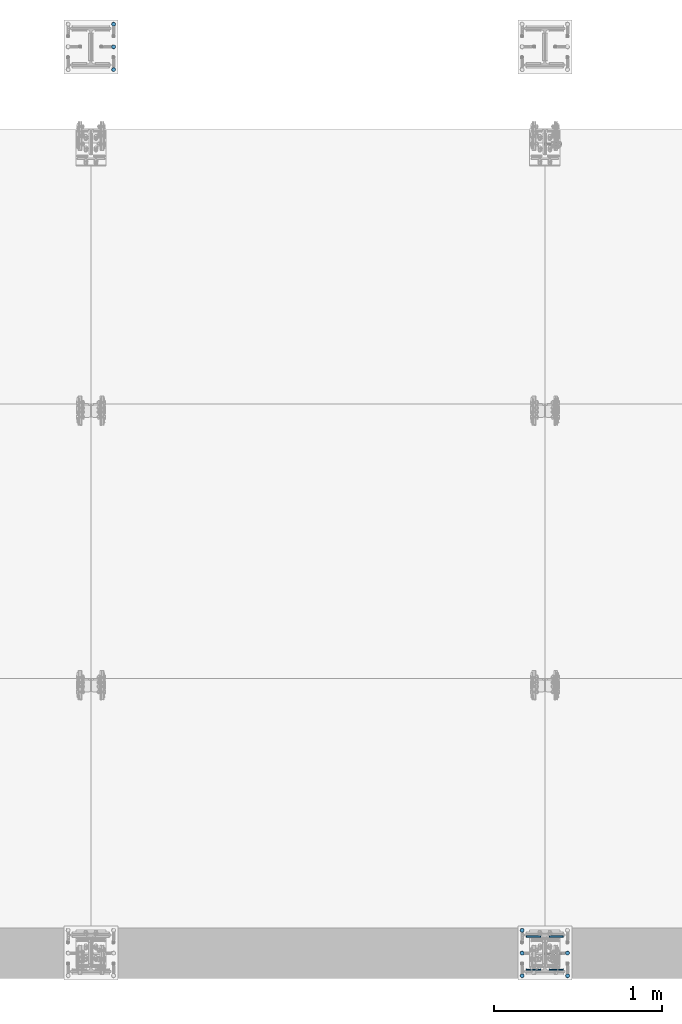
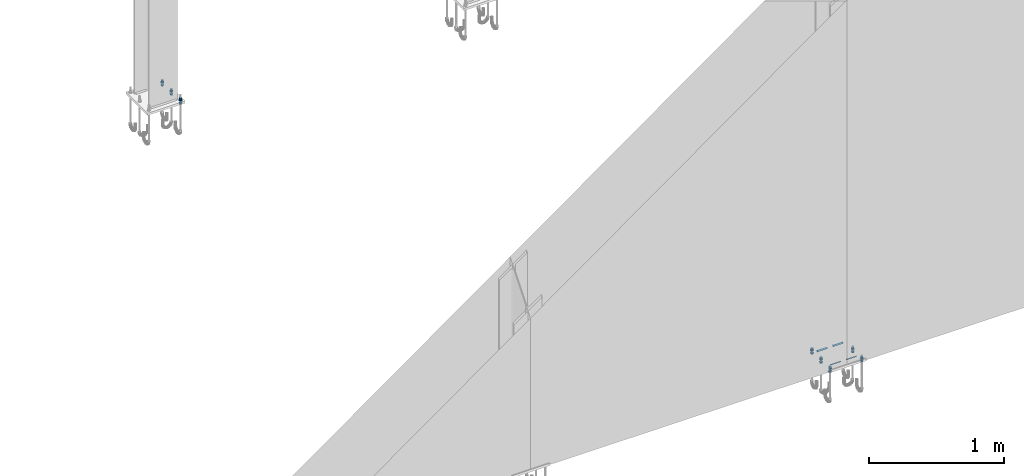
# One storey, part 52 of 72: 40 mechanical fasteners, 8 fasteners.
"""IFC4 building model written with IfcOpenShell, lengths in metres."""

from ifc_helpers import new_model, si_unit, frame, origin_with_axes, place, context, project, spatial, polyline, outline, extrude, type_object, element, save


model = new_model("IFC4")

# Units and contexts
model_context = context("Model", 3, precision=1e-05, world=origin_with_axes())
ifc_project = project(units=[si_unit("LENGTHUNIT", "METRE"), si_unit("AREAUNIT", "SQUARE_METRE"), si_unit("VOLUMEUNIT", "CUBIC_METRE"), si_unit("MASSUNIT", "GRAM", prefix="KILO"), si_unit("TIMEUNIT", "SECOND"), si_unit("PLANEANGLEUNIT", "RADIAN"), si_unit("SOLIDANGLEUNIT", "STERADIAN"), si_unit("THERMODYNAMICTEMPERATUREUNIT", "DEGREE_CELSIUS")], contexts=[model_context])

# Site, building, storey
placement_1 = place(None, origin_with_axes())
site = spatial("IfcSite", under=ifc_project, at=placement_1, Name="Italia", CompositionType="ELEMENT")
building = spatial("IfcBuilding", under=site, at=placement_1, Name="Uffici", CompositionType="ELEMENT")
storey = spatial("IfcBuildingStorey", under=building, at=placement_1, Name="Storey 0", CompositionType="ELEMENT", Elevation=0.0)

# Fasteners
fastener_type_1 = type_object("IfcFastenerType", Name="Collegamenti 0001_0101 0002_0102 0003_0103 0004_0104 0005_0105 0011_0111 0012_0112 0013_0113 0014_0114 0015_0115", PredefinedType="WELD")
placement_2 = place(placement_1, origin_with_axes())
fastener_1_placement = place(placement_2, origin_with_axes())
element("IfcFastener", 1, at=fastener_1_placement, inside=storey, type_object=fastener_type_1, Name="Collegamenti 0001_0101 0002_0102 0003_0103 0004_0104 0005_0105 0011_0111 0012_0112 0013_0113 0014_0114 0015_0115", context=model_context, shape_type="SweptSolid", body=[
    extrude(outline(polyline([(0.0, 0.0), (0.00986816, 0.0101734), (0.00986816, 0.0), (0.0, 0.0)])), frame((9.4797, 0.0931818, 0.01995), z_axis=(1.0, -8.7294403e-08, 0.0), x_axis=(8.7294403e-08, 1.0, 0.0)), (0.0, 0.0, 1.0), 0.08535),
])
fastener_type_2 = type_object("IfcFastenerType", Name="Collegamenti 0001_0101 0002_0102 0003_0103 0004_0104 0005_0105 0011_0111 0012_0112 0013_0113 0014_0114 0015_0115", PredefinedType="WELD")
fastener_2_placement = place(placement_2, origin_with_axes())
element("IfcFastener", 2, at=fastener_2_placement, inside=storey, type_object=fastener_type_2, Name="Collegamenti 0001_0101 0002_0102 0003_0103 0004_0104 0005_0105 0011_0111 0012_0112 0013_0113 0014_0114 0015_0115", context=model_context, shape_type="SweptSolid", body=[
    extrude(outline(polyline([(0.0, 0.0), (0.00986816, 0.0101734), (0.00986816, 0.0), (0.0, 0.0)])), frame((9.56505, -0.0931818, 0.01995), z_axis=(-1.0, 8.7294403e-08, 0.0), x_axis=(-8.7294403e-08, -1.0, 0.0)), (0.0, 0.0, 1.0), 0.08535),
])
fastener_type_3 = type_object("IfcFastenerType", Name="Collegamenti 0001_0101 0002_0102 0003_0103 0004_0104 0005_0105 0011_0111 0012_0112 0013_0113 0014_0114 0015_0115", PredefinedType="WELD")
fastener_3_placement = place(placement_2, origin_with_axes())
element("IfcFastener", 3, at=fastener_3_placement, inside=storey, type_object=fastener_type_3, Name="Collegamenti 0001_0101 0002_0102 0003_0103 0004_0104 0005_0105 0011_0111 0012_0112 0013_0113 0014_0114 0015_0115", context=model_context, shape_type="SweptSolid", body=[
    extrude(outline(polyline([(0.0, 0.0), (0.00986816, 0.0101734), (0.00986816, 0.0), (0.0, 0.0)])), frame((9.4303, -0.0931818, 0.01995), z_axis=(-1.0, 8.7294403e-08, 0.0), x_axis=(-8.7294403e-08, -1.0, 0.0)), (0.0, 0.0, 1.0), 0.08535),
])
fastener_type_4 = type_object("IfcFastenerType", Name="Collegamenti 0001_0101 0002_0102 0003_0103 0004_0104 0005_0105 0011_0111 0012_0112 0013_0113 0014_0114 0015_0115", PredefinedType="WELD")
fastener_4_placement = place(placement_2, origin_with_axes())
element("IfcFastener", 4, at=fastener_4_placement, inside=storey, type_object=fastener_type_4, Name="Collegamenti 0001_0101 0002_0102 0003_0103 0004_0104 0005_0105 0011_0111 0012_0112 0013_0113 0014_0114 0015_0115", context=model_context, shape_type="SweptSolid", body=[
    extrude(outline(polyline([(0.0, 0.0), (0.00986816, 0.0101734), (0.00986816, 0.0), (0.0, 0.0)])), frame((9.34495, 0.0931819, 0.01995), z_axis=(1.0, -8.7294403e-08, 0.0), x_axis=(8.7294403e-08, 1.0, 0.0)), (0.0, 0.0, 1.0), 0.08535),
])
fastener_type_5 = type_object("IfcFastenerType", Name="Collegamenti 0001_0101 0002_0102 0003_0103 0004_0104 0005_0105 0011_0111 0012_0112 0013_0113 0014_0114 0015_0115", PredefinedType="WELD")
fastener_5_placement = place(placement_2, origin_with_axes())
element("IfcFastener", 5, at=fastener_5_placement, inside=storey, type_object=fastener_type_5, Name="Collegamenti 0001_0101 0002_0102 0003_0103 0004_0104 0005_0105 0011_0111 0012_0112 0013_0113 0014_0114 0015_0115", context=model_context, shape_type="SweptSolid", body=[
    extrude(outline(polyline([(0.0, 0.0), (0.00986816, 0.0101734), (0.00986816, 0.0), (0.0, 0.0)])), frame((9.4797, 0.0931818, 0.01995), z_axis=(1.0, -8.7294403e-08, 0.0), x_axis=(8.7294403e-08, 1.0, 0.0)), (0.0, 0.0, 1.0), 0.08535),
])
fastener_type_6 = type_object("IfcFastenerType", Name="Collegamenti 0001_0101 0002_0102 0003_0103 0004_0104 0005_0105 0011_0111 0012_0112 0013_0113 0014_0114 0015_0115", PredefinedType="WELD")
fastener_6_placement = place(placement_2, origin_with_axes())
element("IfcFastener", 6, at=fastener_6_placement, inside=storey, type_object=fastener_type_6, Name="Collegamenti 0001_0101 0002_0102 0003_0103 0004_0104 0005_0105 0011_0111 0012_0112 0013_0113 0014_0114 0015_0115", context=model_context, shape_type="SweptSolid", body=[
    extrude(outline(polyline([(0.0, 0.0), (0.00986816, 0.0101734), (0.00986816, 0.0), (0.0, 0.0)])), frame((9.56505, -0.0931818, 0.01995), z_axis=(-1.0, 8.7294403e-08, 0.0), x_axis=(-8.7294403e-08, -1.0, 0.0)), (0.0, 0.0, 1.0), 0.08535),
])
fastener_type_7 = type_object("IfcFastenerType", Name="Collegamenti 0001_0101 0002_0102 0003_0103 0004_0104 0005_0105 0011_0111 0012_0112 0013_0113 0014_0114 0015_0115", PredefinedType="WELD")
fastener_7_placement = place(placement_2, origin_with_axes())
element("IfcFastener", 7, at=fastener_7_placement, inside=storey, type_object=fastener_type_7, Name="Collegamenti 0001_0101 0002_0102 0003_0103 0004_0104 0005_0105 0011_0111 0012_0112 0013_0113 0014_0114 0015_0115", context=model_context, shape_type="SweptSolid", body=[
    extrude(outline(polyline([(0.0, 0.0), (0.00986816, 0.0101734), (0.00986816, 0.0), (0.0, 0.0)])), frame((9.4303, -0.0931818, 0.01995), z_axis=(-1.0, 8.7294403e-08, 0.0), x_axis=(-8.7294403e-08, -1.0, 0.0)), (0.0, 0.0, 1.0), 0.08535),
])
fastener_type_8 = type_object("IfcFastenerType", Name="Collegamenti 0001_0101 0002_0102 0003_0103 0004_0104 0005_0105 0011_0111 0012_0112 0013_0113 0014_0114 0015_0115", PredefinedType="WELD")
fastener_8_placement = place(placement_2, origin_with_axes())
element("IfcFastener", 8, at=fastener_8_placement, inside=storey, type_object=fastener_type_8, Name="Collegamenti 0001_0101 0002_0102 0003_0103 0004_0104 0005_0105 0011_0111 0012_0112 0013_0113 0014_0114 0015_0115", context=model_context, shape_type="SweptSolid", body=[
    extrude(outline(polyline([(0.0, 0.0), (0.00986816, 0.0101734), (0.00986816, 0.0), (0.0, 0.0)])), frame((9.34495, 0.0931819, 0.01995), z_axis=(1.0, -8.7294403e-08, 0.0), x_axis=(8.7294403e-08, 1.0, 0.0)), (0.0, 0.0, 1.0), 0.08535),
])

# Mechanical fasteners
mechanical_fastener_type_1 = type_object("IfcMechanicalFastenerType", Name="Collegamenti 0001_0101 0002_0102 0003_0103 0004_0104 0005_0105 0011_0111 0012_0112 0013_0113 0014_0114 0015_0115", PredefinedType="BOLT")
mechanical_fastener_1_placement = place(placement_2, origin_with_axes())
element("IfcMechanicalFastener", 9, at=mechanical_fastener_1_placement, inside=storey, type_object=mechanical_fastener_type_1, Name="Collegamenti 0001_0101 0002_0102 0003_0103 0004_0104 0005_0105 0011_0111 0012_0112 0013_0113 0014_0114 0015_0115", NominalDiameter=0.0119998, context=model_context, shape_type="SweptSolid", body=[
    extrude(outline(polyline([(0.0, 0.0), (0.0, 0.0120001), (0.0103923, 0.0180006), (0.0207846, 0.0120001), (0.0207846, 0.0), (0.0103923, -0.00599957), (0.0, 0.0)])), frame((9.326, -0.145392, 0.022), z_axis=(0.0, 0.0, 1.0), x_axis=(0.0, 1.0, 0.0)), (0.0, 0.0, 1.0), 0.0096),
])
mechanical_fastener_type_2 = type_object("IfcMechanicalFastenerType", Name="Collegamenti 0001_0101 0002_0102 0003_0103 0004_0104 0005_0105 0011_0111 0012_0112 0013_0113 0014_0114 0015_0115", PredefinedType="BOLT")
mechanical_fastener_2_placement = place(placement_2, origin_with_axes())
element("IfcMechanicalFastener", 10, at=mechanical_fastener_2_placement, inside=storey, type_object=mechanical_fastener_type_2, Name="Collegamenti 0001_0101 0002_0102 0003_0103 0004_0104 0005_0105 0011_0111 0012_0112 0013_0113 0014_0114 0015_0115", NominalDiameter=0.0119998, context=model_context, shape_type="SweptSolid", body=[
    extrude(outline(polyline([(0.0, 0.0), (0.0, 0.0120001), (0.0103923, 0.0180006), (0.0207846, 0.0120001), (0.0207846, 0.0), (0.0103923, -0.00599957), (0.0, 0.0)])), frame((9.326, -0.145392, 0.0316), z_axis=(0.0, 0.0, 1.0), x_axis=(0.0, 1.0, 0.0)), (0.0, 0.0, 1.0), 0.0096),
])
mechanical_fastener_type_3 = type_object("IfcMechanicalFastenerType", Name="Collegamenti 0001_0101 0002_0102 0003_0103 0004_0104 0005_0105 0011_0111 0012_0112 0013_0113 0014_0114 0015_0115", PredefinedType="BOLT")
mechanical_fastener_3_placement = place(placement_2, origin_with_axes())
element("IfcMechanicalFastener", 11, at=mechanical_fastener_3_placement, inside=storey, type_object=mechanical_fastener_type_3, Name="Collegamenti 0001_0101 0002_0102 0003_0103 0004_0104 0005_0105 0011_0111 0012_0112 0013_0113 0014_0114 0015_0115", NominalDiameter=0.0119998, context=model_context, shape_type="SweptSolid", body=[
    extrude(outline(polyline([(0.0, 0.0), (0.0, 0.0120001), (0.0103923, 0.0180006), (0.0207846, 0.0120001), (0.0207846, 0.0), (0.0103923, -0.00599957), (0.0, 0.0)])), frame((9.326, -0.145392, -0.0116), z_axis=(0.0, 0.0, 1.0), x_axis=(0.0, 1.0, 0.0)), (0.0, 0.0, 1.0), 0.0096),
])
mechanical_fastener_type_4 = type_object("IfcMechanicalFastenerType", Name="Collegamenti 0001_0101 0002_0102 0003_0103 0004_0104 0005_0105 0011_0111 0012_0112 0013_0113 0014_0114 0015_0115", PredefinedType="BOLT")
mechanical_fastener_4_placement = place(placement_2, origin_with_axes())
element("IfcMechanicalFastener", 12, at=mechanical_fastener_4_placement, inside=storey, type_object=mechanical_fastener_type_4, Name="Collegamenti 0001_0101 0002_0102 0003_0103 0004_0104 0005_0105 0011_0111 0012_0112 0013_0113 0014_0114 0015_0115", NominalDiameter=0.024, context=model_context, shape_type="SweptSolid", body=[
    extrude(outline(polyline([(0.0, 0.0), (-0.000408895, -0.00310612), (-0.00160769, -0.00599957), (-0.00351471, -0.00848484), (-0.006, -0.0103922), (-0.00889417, -0.011591), (-0.012, -0.0120001), (-0.0151058, -0.011591), (-0.018, -0.0103922), (-0.0204853, -0.00848484), (-0.0223923, -0.00599957), (-0.0235911, -0.00310612), (-0.024, 0.0), (-0.0235911, 0.00310612), (-0.0223923, 0.00599957), (-0.0204853, 0.00848484), (-0.018, 0.0103922), (-0.0151058, 0.011591), (-0.012, 0.0120001), (-0.00889417, 0.011591), (-0.006, 0.0103922), (-0.00351471, 0.00848484), (-0.00160769, 0.00599957), (-0.000408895, 0.00310612), (0.0, 0.0)])), frame((9.32, -0.123, 0.02), z_axis=(0.0, 0.0, 1.0), x_axis=(0.0, 1.0, 0.0)), (0.0, 0.0, 1.0), 0.002),
])
mechanical_fastener_type_5 = type_object("IfcMechanicalFastenerType", Name="Collegamenti 0001_0101 0002_0102 0003_0103 0004_0104 0005_0105 0011_0111 0012_0112 0013_0113 0014_0114 0015_0115", PredefinedType="BOLT")
mechanical_fastener_5_placement = place(placement_2, origin_with_axes())
element("IfcMechanicalFastener", 13, at=mechanical_fastener_5_placement, inside=storey, type_object=mechanical_fastener_type_5, Name="Collegamenti 0001_0101 0002_0102 0003_0103 0004_0104 0005_0105 0011_0111 0012_0112 0013_0113 0014_0114 0015_0115", NominalDiameter=0.024, context=model_context, shape_type="SweptSolid", body=[
    extrude(outline(polyline([(0.0, 0.0), (-0.000408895, -0.00310612), (-0.00160769, -0.00599957), (-0.00351471, -0.00848484), (-0.006, -0.0103922), (-0.00889417, -0.011591), (-0.012, -0.0120001), (-0.0151058, -0.011591), (-0.018, -0.0103922), (-0.0204853, -0.00848484), (-0.0223923, -0.00599957), (-0.0235911, -0.00310612), (-0.024, 0.0), (-0.0235911, 0.00310612), (-0.0223923, 0.00599957), (-0.0204853, 0.00848484), (-0.018, 0.0103922), (-0.0151058, 0.011591), (-0.012, 0.0120001), (-0.00889417, 0.011591), (-0.006, 0.0103922), (-0.00351471, 0.00848484), (-0.00160769, 0.00599957), (-0.000408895, 0.00310612), (0.0, 0.0)])), frame((9.32, -0.123, -0.002), z_axis=(0.0, 0.0, 1.0), x_axis=(0.0, 1.0, 0.0)), (0.0, 0.0, 1.0), 0.002),
])
mechanical_fastener_type_6 = type_object("IfcMechanicalFastenerType", Name="Collegamenti 0001_0101 0002_0102 0003_0103 0004_0104 0005_0105 0011_0111 0012_0112 0013_0113 0014_0114 0015_0115", PredefinedType="BOLT")
mechanical_fastener_6_placement = place(placement_2, origin_with_axes())
element("IfcMechanicalFastener", 14, at=mechanical_fastener_6_placement, inside=storey, type_object=mechanical_fastener_type_6, Name="Collegamenti 0001_0101 0002_0102 0003_0103 0004_0104 0005_0105 0011_0111 0012_0112 0013_0113 0014_0114 0015_0115", NominalDiameter=0.0119998, context=model_context, shape_type="SweptSolid", body=[
    extrude(outline(polyline([(0.0, 0.0), (0.0, 0.0120001), (0.0103923, 0.0179996), (0.0207846, 0.0120001), (0.0207846, 0.0), (0.0103923, -0.00600052), (0.0, 0.0)])), frame((9.596, -0.145392, 0.022), z_axis=(0.0, 0.0, 1.0), x_axis=(0.0, 1.0, 0.0)), (0.0, 0.0, 1.0), 0.0096),
])
mechanical_fastener_type_7 = type_object("IfcMechanicalFastenerType", Name="Collegamenti 0001_0101 0002_0102 0003_0103 0004_0104 0005_0105 0011_0111 0012_0112 0013_0113 0014_0114 0015_0115", PredefinedType="BOLT")
mechanical_fastener_7_placement = place(placement_2, origin_with_axes())
element("IfcMechanicalFastener", 15, at=mechanical_fastener_7_placement, inside=storey, type_object=mechanical_fastener_type_7, Name="Collegamenti 0001_0101 0002_0102 0003_0103 0004_0104 0005_0105 0011_0111 0012_0112 0013_0113 0014_0114 0015_0115", NominalDiameter=0.0119998, context=model_context, shape_type="SweptSolid", body=[
    extrude(outline(polyline([(0.0, 0.0), (0.0, 0.0120001), (0.0103923, 0.0179996), (0.0207846, 0.0120001), (0.0207846, 0.0), (0.0103923, -0.00600052), (0.0, 0.0)])), frame((9.596, -0.145392, 0.0316), z_axis=(0.0, 0.0, 1.0), x_axis=(0.0, 1.0, 0.0)), (0.0, 0.0, 1.0), 0.0096),
])
mechanical_fastener_type_8 = type_object("IfcMechanicalFastenerType", Name="Collegamenti 0001_0101 0002_0102 0003_0103 0004_0104 0005_0105 0011_0111 0012_0112 0013_0113 0014_0114 0015_0115", PredefinedType="BOLT")
mechanical_fastener_8_placement = place(placement_2, origin_with_axes())
element("IfcMechanicalFastener", 16, at=mechanical_fastener_8_placement, inside=storey, type_object=mechanical_fastener_type_8, Name="Collegamenti 0001_0101 0002_0102 0003_0103 0004_0104 0005_0105 0011_0111 0012_0112 0013_0113 0014_0114 0015_0115", NominalDiameter=0.0119998, context=model_context, shape_type="SweptSolid", body=[
    extrude(outline(polyline([(0.0, 0.0), (0.0, 0.0120001), (0.0103923, 0.0179996), (0.0207846, 0.0120001), (0.0207846, 0.0), (0.0103923, -0.00600052), (0.0, 0.0)])), frame((9.596, -0.145392, -0.0116), z_axis=(0.0, 0.0, 1.0), x_axis=(0.0, 1.0, 0.0)), (0.0, 0.0, 1.0), 0.0096),
])
mechanical_fastener_type_9 = type_object("IfcMechanicalFastenerType", Name="Collegamenti 0001_0101 0002_0102 0003_0103 0004_0104 0005_0105 0011_0111 0012_0112 0013_0113 0014_0114 0015_0115", PredefinedType="BOLT")
mechanical_fastener_9_placement = place(placement_2, origin_with_axes())
element("IfcMechanicalFastener", 17, at=mechanical_fastener_9_placement, inside=storey, type_object=mechanical_fastener_type_9, Name="Collegamenti 0001_0101 0002_0102 0003_0103 0004_0104 0005_0105 0011_0111 0012_0112 0013_0113 0014_0114 0015_0115", NominalDiameter=0.024, context=model_context, shape_type="SweptSolid", body=[
    extrude(outline(polyline([(0.0, 0.0), (-0.000408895, -0.00310612), (-0.00160769, -0.00599957), (-0.00351471, -0.00848484), (-0.006, -0.0103922), (-0.00889417, -0.011591), (-0.012, -0.0120001), (-0.0151058, -0.011591), (-0.018, -0.0103922), (-0.0204853, -0.00848484), (-0.0223923, -0.00599957), (-0.0235911, -0.00310612), (-0.024, 0.0), (-0.0235911, 0.00310612), (-0.0223923, 0.00599957), (-0.0204853, 0.00848484), (-0.018, 0.0103922), (-0.0151058, 0.011591), (-0.012, 0.0120001), (-0.00889417, 0.011591), (-0.006, 0.0103922), (-0.00351471, 0.00848484), (-0.00160769, 0.00599957), (-0.000408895, 0.00310612), (0.0, 0.0)])), frame((9.59, -0.123, 0.02), z_axis=(0.0, 0.0, 1.0), x_axis=(0.0, 1.0, 0.0)), (0.0, 0.0, 1.0), 0.002),
])
mechanical_fastener_type_10 = type_object("IfcMechanicalFastenerType", Name="Collegamenti 0001_0101 0002_0102 0003_0103 0004_0104 0005_0105 0011_0111 0012_0112 0013_0113 0014_0114 0015_0115", PredefinedType="BOLT")
mechanical_fastener_10_placement = place(placement_2, origin_with_axes())
element("IfcMechanicalFastener", 18, at=mechanical_fastener_10_placement, inside=storey, type_object=mechanical_fastener_type_10, Name="Collegamenti 0001_0101 0002_0102 0003_0103 0004_0104 0005_0105 0011_0111 0012_0112 0013_0113 0014_0114 0015_0115", NominalDiameter=0.024, context=model_context, shape_type="SweptSolid", body=[
    extrude(outline(polyline([(0.0, 0.0), (-0.000408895, -0.00310612), (-0.00160769, -0.00599957), (-0.00351471, -0.00848484), (-0.006, -0.0103922), (-0.00889417, -0.011591), (-0.012, -0.0120001), (-0.0151058, -0.011591), (-0.018, -0.0103922), (-0.0204853, -0.00848484), (-0.0223923, -0.00599957), (-0.0235911, -0.00310612), (-0.024, 0.0), (-0.0235911, 0.00310612), (-0.0223923, 0.00599957), (-0.0204853, 0.00848484), (-0.018, 0.0103922), (-0.0151058, 0.011591), (-0.012, 0.0120001), (-0.00889417, 0.011591), (-0.006, 0.0103922), (-0.00351471, 0.00848484), (-0.00160769, 0.00599957), (-0.000408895, 0.00310612), (0.0, 0.0)])), frame((9.59, -0.123, -0.002), z_axis=(0.0, 0.0, 1.0), x_axis=(0.0, 1.0, 0.0)), (0.0, 0.0, 1.0), 0.002),
])
mechanical_fastener_type_11 = type_object("IfcMechanicalFastenerType", Name="Collegamenti 0001_0101 0002_0102 0003_0103 0004_0104 0005_0105 0011_0111 0012_0112 0013_0113 0014_0114 0015_0115", PredefinedType="BOLT")
mechanical_fastener_11_placement = place(placement_2, origin_with_axes())
element("IfcMechanicalFastener", 19, at=mechanical_fastener_11_placement, inside=storey, type_object=mechanical_fastener_type_11, Name="Collegamenti 0001_0101 0002_0102 0003_0103 0004_0104 0005_0105 0011_0111 0012_0112 0013_0113 0014_0114 0015_0115", NominalDiameter=0.0119998, context=model_context, shape_type="SweptSolid", body=[
    extrude(outline(polyline([(0.0, 0.0), (0.0, 0.0120001), (0.0103923, 0.0180006), (0.0207846, 0.0120001), (0.0207846, 0.0), (0.0103923, -0.00599957), (0.0, 0.0)])), frame((9.326, -0.0103923, 0.022), z_axis=(0.0, 0.0, 1.0), x_axis=(0.0, 1.0, 0.0)), (0.0, 0.0, 1.0), 0.0096),
])
mechanical_fastener_type_12 = type_object("IfcMechanicalFastenerType", Name="Collegamenti 0001_0101 0002_0102 0003_0103 0004_0104 0005_0105 0011_0111 0012_0112 0013_0113 0014_0114 0015_0115", PredefinedType="BOLT")
mechanical_fastener_12_placement = place(placement_2, origin_with_axes())
element("IfcMechanicalFastener", 20, at=mechanical_fastener_12_placement, inside=storey, type_object=mechanical_fastener_type_12, Name="Collegamenti 0001_0101 0002_0102 0003_0103 0004_0104 0005_0105 0011_0111 0012_0112 0013_0113 0014_0114 0015_0115", NominalDiameter=0.0119998, context=model_context, shape_type="SweptSolid", body=[
    extrude(outline(polyline([(0.0, 0.0), (0.0, 0.0120001), (0.0103923, 0.0180006), (0.0207846, 0.0120001), (0.0207846, 0.0), (0.0103923, -0.00599957), (0.0, 0.0)])), frame((9.326, -0.0103923, 0.0316), z_axis=(0.0, 0.0, 1.0), x_axis=(0.0, 1.0, 0.0)), (0.0, 0.0, 1.0), 0.0096),
])
mechanical_fastener_type_13 = type_object("IfcMechanicalFastenerType", Name="Collegamenti 0001_0101 0002_0102 0003_0103 0004_0104 0005_0105 0011_0111 0012_0112 0013_0113 0014_0114 0015_0115", PredefinedType="BOLT")
mechanical_fastener_13_placement = place(placement_2, origin_with_axes())
element("IfcMechanicalFastener", 21, at=mechanical_fastener_13_placement, inside=storey, type_object=mechanical_fastener_type_13, Name="Collegamenti 0001_0101 0002_0102 0003_0103 0004_0104 0005_0105 0011_0111 0012_0112 0013_0113 0014_0114 0015_0115", NominalDiameter=0.0119998, context=model_context, shape_type="SweptSolid", body=[
    extrude(outline(polyline([(0.0, 0.0), (0.0, 0.0120001), (0.0103923, 0.0180006), (0.0207846, 0.0120001), (0.0207846, 0.0), (0.0103923, -0.00599957), (0.0, 0.0)])), frame((9.326, -0.0103923, -0.0116), z_axis=(0.0, 0.0, 1.0), x_axis=(0.0, 1.0, 0.0)), (0.0, 0.0, 1.0), 0.0096),
])
mechanical_fastener_type_14 = type_object("IfcMechanicalFastenerType", Name="Collegamenti 0001_0101 0002_0102 0003_0103 0004_0104 0005_0105 0011_0111 0012_0112 0013_0113 0014_0114 0015_0115", PredefinedType="BOLT")
mechanical_fastener_14_placement = place(placement_2, origin_with_axes())
element("IfcMechanicalFastener", 22, at=mechanical_fastener_14_placement, inside=storey, type_object=mechanical_fastener_type_14, Name="Collegamenti 0001_0101 0002_0102 0003_0103 0004_0104 0005_0105 0011_0111 0012_0112 0013_0113 0014_0114 0015_0115", NominalDiameter=0.024, context=model_context, shape_type="SweptSolid", body=[
    extrude(outline(polyline([(0.0, 0.0), (-0.00040889, -0.00310612), (-0.0016077, -0.00599957), (-0.00351472, -0.00848484), (-0.006, -0.0103922), (-0.00889417, -0.011591), (-0.012, -0.0120001), (-0.0151058, -0.011591), (-0.018, -0.0103922), (-0.0204853, -0.00848484), (-0.0223923, -0.00599957), (-0.0235911, -0.00310612), (-0.024, 0.0), (-0.0235911, 0.00310612), (-0.0223923, 0.00599957), (-0.0204853, 0.00848484), (-0.018, 0.0103922), (-0.0151058, 0.011591), (-0.012, 0.0120001), (-0.00889417, 0.011591), (-0.006, 0.0103922), (-0.00351472, 0.00848484), (-0.00160769, 0.00599957), (-0.00040889, 0.00310612), (0.0, 0.0)])), frame((9.32, 0.012, 0.02), z_axis=(0.0, 0.0, 1.0), x_axis=(0.0, 1.0, 0.0)), (0.0, 0.0, 1.0), 0.002),
])
mechanical_fastener_type_15 = type_object("IfcMechanicalFastenerType", Name="Collegamenti 0001_0101 0002_0102 0003_0103 0004_0104 0005_0105 0011_0111 0012_0112 0013_0113 0014_0114 0015_0115", PredefinedType="BOLT")
mechanical_fastener_15_placement = place(placement_2, origin_with_axes())
element("IfcMechanicalFastener", 23, at=mechanical_fastener_15_placement, inside=storey, type_object=mechanical_fastener_type_15, Name="Collegamenti 0001_0101 0002_0102 0003_0103 0004_0104 0005_0105 0011_0111 0012_0112 0013_0113 0014_0114 0015_0115", NominalDiameter=0.024, context=model_context, shape_type="SweptSolid", body=[
    extrude(outline(polyline([(0.0, 0.0), (-0.00040889, -0.00310612), (-0.0016077, -0.00599957), (-0.00351472, -0.00848484), (-0.006, -0.0103922), (-0.00889417, -0.011591), (-0.012, -0.0120001), (-0.0151058, -0.011591), (-0.018, -0.0103922), (-0.0204853, -0.00848484), (-0.0223923, -0.00599957), (-0.0235911, -0.00310612), (-0.024, 0.0), (-0.0235911, 0.00310612), (-0.0223923, 0.00599957), (-0.0204853, 0.00848484), (-0.018, 0.0103922), (-0.0151058, 0.011591), (-0.012, 0.0120001), (-0.00889417, 0.011591), (-0.006, 0.0103922), (-0.00351472, 0.00848484), (-0.00160769, 0.00599957), (-0.00040889, 0.00310612), (0.0, 0.0)])), frame((9.32, 0.012, -0.002), z_axis=(0.0, 0.0, 1.0), x_axis=(0.0, 1.0, 0.0)), (0.0, 0.0, 1.0), 0.002),
])
mechanical_fastener_type_16 = type_object("IfcMechanicalFastenerType", Name="Collegamenti 0001_0101 0002_0102 0003_0103 0004_0104 0005_0105 0011_0111 0012_0112 0013_0113 0014_0114 0015_0115", PredefinedType="BOLT")
mechanical_fastener_16_placement = place(placement_2, origin_with_axes())
element("IfcMechanicalFastener", 24, at=mechanical_fastener_16_placement, inside=storey, type_object=mechanical_fastener_type_16, Name="Collegamenti 0001_0101 0002_0102 0003_0103 0004_0104 0005_0105 0011_0111 0012_0112 0013_0113 0014_0114 0015_0115", NominalDiameter=0.0119998, context=model_context, shape_type="SweptSolid", body=[
    extrude(outline(polyline([(0.0, 0.0), (0.0, 0.0120001), (0.0103923, 0.0179996), (0.0207846, 0.0120001), (0.0207846, 0.0), (0.0103923, -0.00600052), (0.0, 0.0)])), frame((9.596, -0.0103923, 0.022), z_axis=(0.0, 0.0, 1.0), x_axis=(0.0, 1.0, 0.0)), (0.0, 0.0, 1.0), 0.0096),
])
mechanical_fastener_type_17 = type_object("IfcMechanicalFastenerType", Name="Collegamenti 0001_0101 0002_0102 0003_0103 0004_0104 0005_0105 0011_0111 0012_0112 0013_0113 0014_0114 0015_0115", PredefinedType="BOLT")
mechanical_fastener_17_placement = place(placement_2, origin_with_axes())
element("IfcMechanicalFastener", 25, at=mechanical_fastener_17_placement, inside=storey, type_object=mechanical_fastener_type_17, Name="Collegamenti 0001_0101 0002_0102 0003_0103 0004_0104 0005_0105 0011_0111 0012_0112 0013_0113 0014_0114 0015_0115", NominalDiameter=0.0119998, context=model_context, shape_type="SweptSolid", body=[
    extrude(outline(polyline([(0.0, 0.0), (0.0, 0.0120001), (0.0103923, 0.0179996), (0.0207846, 0.0120001), (0.0207846, 0.0), (0.0103923, -0.00600052), (0.0, 0.0)])), frame((9.596, -0.0103923, 0.0316), z_axis=(0.0, 0.0, 1.0), x_axis=(0.0, 1.0, 0.0)), (0.0, 0.0, 1.0), 0.0096),
])
mechanical_fastener_type_18 = type_object("IfcMechanicalFastenerType", Name="Collegamenti 0001_0101 0002_0102 0003_0103 0004_0104 0005_0105 0011_0111 0012_0112 0013_0113 0014_0114 0015_0115", PredefinedType="BOLT")
mechanical_fastener_18_placement = place(placement_2, origin_with_axes())
element("IfcMechanicalFastener", 26, at=mechanical_fastener_18_placement, inside=storey, type_object=mechanical_fastener_type_18, Name="Collegamenti 0001_0101 0002_0102 0003_0103 0004_0104 0005_0105 0011_0111 0012_0112 0013_0113 0014_0114 0015_0115", NominalDiameter=0.0119998, context=model_context, shape_type="SweptSolid", body=[
    extrude(outline(polyline([(0.0, 0.0), (0.0, 0.0120001), (0.0103923, 0.0179996), (0.0207846, 0.0120001), (0.0207846, 0.0), (0.0103923, -0.00600052), (0.0, 0.0)])), frame((9.596, -0.0103923, -0.0116), z_axis=(0.0, 0.0, 1.0), x_axis=(0.0, 1.0, 0.0)), (0.0, 0.0, 1.0), 0.0096),
])
mechanical_fastener_type_19 = type_object("IfcMechanicalFastenerType", Name="Collegamenti 0001_0101 0002_0102 0003_0103 0004_0104 0005_0105 0011_0111 0012_0112 0013_0113 0014_0114 0015_0115", PredefinedType="BOLT")
mechanical_fastener_19_placement = place(placement_2, origin_with_axes())
element("IfcMechanicalFastener", 27, at=mechanical_fastener_19_placement, inside=storey, type_object=mechanical_fastener_type_19, Name="Collegamenti 0001_0101 0002_0102 0003_0103 0004_0104 0005_0105 0011_0111 0012_0112 0013_0113 0014_0114 0015_0115", NominalDiameter=0.024, context=model_context, shape_type="SweptSolid", body=[
    extrude(outline(polyline([(0.0, 0.0), (-0.00040889, -0.00310612), (-0.0016077, -0.00599957), (-0.00351472, -0.00848484), (-0.006, -0.0103922), (-0.00889417, -0.011591), (-0.012, -0.0120001), (-0.0151058, -0.011591), (-0.018, -0.0103922), (-0.0204853, -0.00848484), (-0.0223923, -0.00599957), (-0.0235911, -0.00310612), (-0.024, 0.0), (-0.0235911, 0.00310612), (-0.0223923, 0.00599957), (-0.0204853, 0.00848484), (-0.018, 0.0103922), (-0.0151058, 0.011591), (-0.012, 0.0120001), (-0.00889417, 0.011591), (-0.006, 0.0103922), (-0.00351472, 0.00848484), (-0.00160769, 0.00599957), (-0.00040889, 0.00310612), (0.0, 0.0)])), frame((9.59, 0.012, 0.02), z_axis=(0.0, 0.0, 1.0), x_axis=(0.0, 1.0, 0.0)), (0.0, 0.0, 1.0), 0.002),
])
mechanical_fastener_type_20 = type_object("IfcMechanicalFastenerType", Name="Collegamenti 0001_0101 0002_0102 0003_0103 0004_0104 0005_0105 0011_0111 0012_0112 0013_0113 0014_0114 0015_0115", PredefinedType="BOLT")
mechanical_fastener_20_placement = place(placement_2, origin_with_axes())
element("IfcMechanicalFastener", 28, at=mechanical_fastener_20_placement, inside=storey, type_object=mechanical_fastener_type_20, Name="Collegamenti 0001_0101 0002_0102 0003_0103 0004_0104 0005_0105 0011_0111 0012_0112 0013_0113 0014_0114 0015_0115", NominalDiameter=0.024, context=model_context, shape_type="SweptSolid", body=[
    extrude(outline(polyline([(0.0, 0.0), (-0.00040889, -0.00310612), (-0.0016077, -0.00599957), (-0.00351472, -0.00848484), (-0.006, -0.0103922), (-0.00889417, -0.011591), (-0.012, -0.0120001), (-0.0151058, -0.011591), (-0.018, -0.0103922), (-0.0204853, -0.00848484), (-0.0223923, -0.00599957), (-0.0235911, -0.00310612), (-0.024, 0.0), (-0.0235911, 0.00310612), (-0.0223923, 0.00599957), (-0.0204853, 0.00848484), (-0.018, 0.0103922), (-0.0151058, 0.011591), (-0.012, 0.0120001), (-0.00889417, 0.011591), (-0.006, 0.0103922), (-0.00351472, 0.00848484), (-0.00160769, 0.00599957), (-0.00040889, 0.00310612), (0.0, 0.0)])), frame((9.59, 0.012, -0.002), z_axis=(0.0, 0.0, 1.0), x_axis=(0.0, 1.0, 0.0)), (0.0, 0.0, 1.0), 0.002),
])
mechanical_fastener_type_21 = type_object("IfcMechanicalFastenerType", Name="Collegamenti 0001_0101 0002_0102 0003_0103 0004_0104 0005_0105 0011_0111 0012_0112 0013_0113 0014_0114 0015_0115", PredefinedType="BOLT")
mechanical_fastener_21_placement = place(placement_2, origin_with_axes())
element("IfcMechanicalFastener", 29, at=mechanical_fastener_21_placement, inside=storey, type_object=mechanical_fastener_type_21, Name="Collegamenti 0001_0101 0002_0102 0003_0103 0004_0104 0005_0105 0011_0111 0012_0112 0013_0113 0014_0114 0015_0115", NominalDiameter=0.0119998, context=model_context, shape_type="SweptSolid", body=[
    extrude(outline(polyline([(0.0, 0.0), (0.0, 0.0120001), (0.0103923, 0.0180006), (0.0207846, 0.0120001), (0.0207846, 0.0), (0.0103923, -0.00599957), (0.0, 0.0)])), frame((9.326, 0.124608, 0.022), z_axis=(0.0, 0.0, 1.0), x_axis=(0.0, 1.0, 0.0)), (0.0, 0.0, 1.0), 0.0096),
])
mechanical_fastener_type_22 = type_object("IfcMechanicalFastenerType", Name="Collegamenti 0001_0101 0002_0102 0003_0103 0004_0104 0005_0105 0011_0111 0012_0112 0013_0113 0014_0114 0015_0115", PredefinedType="BOLT")
mechanical_fastener_22_placement = place(placement_2, origin_with_axes())
element("IfcMechanicalFastener", 30, at=mechanical_fastener_22_placement, inside=storey, type_object=mechanical_fastener_type_22, Name="Collegamenti 0001_0101 0002_0102 0003_0103 0004_0104 0005_0105 0011_0111 0012_0112 0013_0113 0014_0114 0015_0115", NominalDiameter=0.0119998, context=model_context, shape_type="SweptSolid", body=[
    extrude(outline(polyline([(0.0, 0.0), (0.0, 0.0120001), (0.0103923, 0.0180006), (0.0207846, 0.0120001), (0.0207846, 0.0), (0.0103923, -0.00599957), (0.0, 0.0)])), frame((9.326, 0.124608, 0.0316), z_axis=(0.0, 0.0, 1.0), x_axis=(0.0, 1.0, 0.0)), (0.0, 0.0, 1.0), 0.0096),
])
mechanical_fastener_type_23 = type_object("IfcMechanicalFastenerType", Name="Collegamenti 0001_0101 0002_0102 0003_0103 0004_0104 0005_0105 0011_0111 0012_0112 0013_0113 0014_0114 0015_0115", PredefinedType="BOLT")
mechanical_fastener_23_placement = place(placement_2, origin_with_axes())
element("IfcMechanicalFastener", 31, at=mechanical_fastener_23_placement, inside=storey, type_object=mechanical_fastener_type_23, Name="Collegamenti 0001_0101 0002_0102 0003_0103 0004_0104 0005_0105 0011_0111 0012_0112 0013_0113 0014_0114 0015_0115", NominalDiameter=0.0119998, context=model_context, shape_type="SweptSolid", body=[
    extrude(outline(polyline([(0.0, 0.0), (0.0, 0.0120001), (0.0103923, 0.0180006), (0.0207846, 0.0120001), (0.0207846, 0.0), (0.0103923, -0.00599957), (0.0, 0.0)])), frame((9.326, 0.124608, -0.0116), z_axis=(0.0, 0.0, 1.0), x_axis=(0.0, 1.0, 0.0)), (0.0, 0.0, 1.0), 0.0096),
])
mechanical_fastener_type_24 = type_object("IfcMechanicalFastenerType", Name="Collegamenti 0001_0101 0002_0102 0003_0103 0004_0104 0005_0105 0011_0111 0012_0112 0013_0113 0014_0114 0015_0115", PredefinedType="BOLT")
mechanical_fastener_24_placement = place(placement_2, origin_with_axes())
element("IfcMechanicalFastener", 32, at=mechanical_fastener_24_placement, inside=storey, type_object=mechanical_fastener_type_24, Name="Collegamenti 0001_0101 0002_0102 0003_0103 0004_0104 0005_0105 0011_0111 0012_0112 0013_0113 0014_0114 0015_0115", NominalDiameter=0.024, context=model_context, shape_type="SweptSolid", body=[
    extrude(outline(polyline([(0.0, 0.0), (-0.000408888, -0.00310612), (-0.00160769, -0.00599957), (-0.00351471, -0.00848484), (-0.006, -0.0103922), (-0.00889416, -0.011591), (-0.012, -0.0120001), (-0.0151058, -0.011591), (-0.018, -0.0103922), (-0.0204853, -0.00848484), (-0.0223923, -0.00599957), (-0.0235911, -0.00310612), (-0.024, 0.0), (-0.0235911, 0.00310612), (-0.0223923, 0.00599957), (-0.0204853, 0.00848484), (-0.018, 0.0103922), (-0.0151058, 0.011591), (-0.012, 0.0120001), (-0.00889416, 0.011591), (-0.006, 0.0103922), (-0.00351471, 0.00848484), (-0.00160769, 0.00599957), (-0.000408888, 0.00310612), (0.0, 0.0)])), frame((9.32, 0.147, 0.02), z_axis=(0.0, 0.0, 1.0), x_axis=(0.0, 1.0, 0.0)), (0.0, 0.0, 1.0), 0.002),
])
mechanical_fastener_type_25 = type_object("IfcMechanicalFastenerType", Name="Collegamenti 0001_0101 0002_0102 0003_0103 0004_0104 0005_0105 0011_0111 0012_0112 0013_0113 0014_0114 0015_0115", PredefinedType="BOLT")
mechanical_fastener_25_placement = place(placement_2, origin_with_axes())
element("IfcMechanicalFastener", 33, at=mechanical_fastener_25_placement, inside=storey, type_object=mechanical_fastener_type_25, Name="Collegamenti 0001_0101 0002_0102 0003_0103 0004_0104 0005_0105 0011_0111 0012_0112 0013_0113 0014_0114 0015_0115", NominalDiameter=0.024, context=model_context, shape_type="SweptSolid", body=[
    extrude(outline(polyline([(0.0, 0.0), (-0.000408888, -0.00310612), (-0.00160769, -0.00599957), (-0.00351471, -0.00848484), (-0.006, -0.0103922), (-0.00889416, -0.011591), (-0.012, -0.0120001), (-0.0151058, -0.011591), (-0.018, -0.0103922), (-0.0204853, -0.00848484), (-0.0223923, -0.00599957), (-0.0235911, -0.00310612), (-0.024, 0.0), (-0.0235911, 0.00310612), (-0.0223923, 0.00599957), (-0.0204853, 0.00848484), (-0.018, 0.0103922), (-0.0151058, 0.011591), (-0.012, 0.0120001), (-0.00889416, 0.011591), (-0.006, 0.0103922), (-0.00351471, 0.00848484), (-0.00160769, 0.00599957), (-0.000408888, 0.00310612), (0.0, 0.0)])), frame((9.32, 0.147, -0.002), z_axis=(0.0, 0.0, 1.0), x_axis=(0.0, 1.0, 0.0)), (0.0, 0.0, 1.0), 0.002),
])
mechanical_fastener_type_26 = type_object("IfcMechanicalFastenerType", Name="Collegamenti 0001_0101 0002_0102 0003_0103 0004_0104 0005_0105 0011_0111 0012_0112 0013_0113 0014_0114 0015_0115", PredefinedType="BOLT")
mechanical_fastener_26_placement = place(placement_2, origin_with_axes())
element("IfcMechanicalFastener", 34, at=mechanical_fastener_26_placement, inside=storey, type_object=mechanical_fastener_type_26, Name="Collegamenti 0001_0101 0002_0102 0003_0103 0004_0104 0005_0105 0011_0111 0012_0112 0013_0113 0014_0114 0015_0115", NominalDiameter=0.0119996, context=model_context, shape_type="SweptSolid", body=[
    extrude(outline(polyline([(0.0, 0.0), (0.0, 0.0119996), (0.0103922, 0.0179996), (0.0207849, 0.0119996), (0.0207849, 0.0), (0.0103922, -0.00600004), (0.0, 0.0)])), frame((6.896, 5.24461, 0.022), z_axis=(0.0, 0.0, 1.0), x_axis=(0.0, 1.0, 0.0)), (0.0, 0.0, 1.0), 0.0096),
])
mechanical_fastener_type_27 = type_object("IfcMechanicalFastenerType", Name="Collegamenti 0001_0101 0002_0102 0003_0103 0004_0104 0005_0105 0011_0111 0012_0112 0013_0113 0014_0114 0015_0115", PredefinedType="BOLT")
mechanical_fastener_27_placement = place(placement_2, origin_with_axes())
element("IfcMechanicalFastener", 35, at=mechanical_fastener_27_placement, inside=storey, type_object=mechanical_fastener_type_27, Name="Collegamenti 0001_0101 0002_0102 0003_0103 0004_0104 0005_0105 0011_0111 0012_0112 0013_0113 0014_0114 0015_0115", NominalDiameter=0.0119996, context=model_context, shape_type="SweptSolid", body=[
    extrude(outline(polyline([(0.0, 0.0), (0.0, 0.0119996), (0.0103922, 0.0179996), (0.0207849, 0.0119996), (0.0207849, 0.0), (0.0103922, -0.00600004), (0.0, 0.0)])), frame((6.896, 5.24461, 0.0316), z_axis=(0.0, 0.0, 1.0), x_axis=(0.0, 1.0, 0.0)), (0.0, 0.0, 1.0), 0.0096),
])
mechanical_fastener_type_28 = type_object("IfcMechanicalFastenerType", Name="Collegamenti 0001_0101 0002_0102 0003_0103 0004_0104 0005_0105 0011_0111 0012_0112 0013_0113 0014_0114 0015_0115", PredefinedType="BOLT")
mechanical_fastener_28_placement = place(placement_2, origin_with_axes())
element("IfcMechanicalFastener", 36, at=mechanical_fastener_28_placement, inside=storey, type_object=mechanical_fastener_type_28, Name="Collegamenti 0001_0101 0002_0102 0003_0103 0004_0104 0005_0105 0011_0111 0012_0112 0013_0113 0014_0114 0015_0115", NominalDiameter=0.0119996, context=model_context, shape_type="SweptSolid", body=[
    extrude(outline(polyline([(0.0, 0.0), (0.0, 0.0119996), (0.0103922, 0.0179996), (0.0207849, 0.0119996), (0.0207849, 0.0), (0.0103922, -0.00600004), (0.0, 0.0)])), frame((6.896, 5.24461, -0.0116), z_axis=(0.0, 0.0, 1.0), x_axis=(0.0, 1.0, 0.0)), (0.0, 0.0, 1.0), 0.0096),
])
mechanical_fastener_type_29 = type_object("IfcMechanicalFastenerType", Name="Collegamenti 0001_0101 0002_0102 0003_0103 0004_0104 0005_0105 0011_0111 0012_0112 0013_0113 0014_0114 0015_0115", PredefinedType="BOLT")
mechanical_fastener_29_placement = place(placement_2, origin_with_axes())
element("IfcMechanicalFastener", 37, at=mechanical_fastener_29_placement, inside=storey, type_object=mechanical_fastener_type_29, Name="Collegamenti 0001_0101 0002_0102 0003_0103 0004_0104 0005_0105 0011_0111 0012_0112 0013_0113 0014_0114 0015_0115", NominalDiameter=0.024, context=model_context, shape_type="SweptSolid", body=[
    extrude(outline(polyline([(0.0, 0.0), (-0.000409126, -0.00310564), (-0.00160789, -0.00600004), (-0.00351477, -0.00848532), (-0.00600004, -0.0103922), (-0.00889444, -0.011591), (-0.0120001, -0.0120001), (-0.0151057, -0.011591), (-0.0180001, -0.0103922), (-0.0204854, -0.00848532), (-0.0223923, -0.00600004), (-0.023591, -0.00310564), (-0.0240002, 0.0), (-0.023591, 0.00310564), (-0.0223923, 0.00600004), (-0.0204854, 0.00848532), (-0.0180001, 0.0103922), (-0.0151057, 0.011591), (-0.0120001, 0.0120001), (-0.00889444, 0.011591), (-0.00600004, 0.0103922), (-0.00351477, 0.00848532), (-0.00160789, 0.00600004), (-0.000409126, 0.00310564), (0.0, 0.0)])), frame((6.89, 5.267, 0.02), z_axis=(0.0, 0.0, 1.0), x_axis=(0.0, 1.0, 0.0)), (0.0, 0.0, 1.0), 0.002),
])
mechanical_fastener_type_30 = type_object("IfcMechanicalFastenerType", Name="Collegamenti 0001_0101 0002_0102 0003_0103 0004_0104 0005_0105 0011_0111 0012_0112 0013_0113 0014_0114 0015_0115", PredefinedType="BOLT")
mechanical_fastener_30_placement = place(placement_2, origin_with_axes())
element("IfcMechanicalFastener", 38, at=mechanical_fastener_30_placement, inside=storey, type_object=mechanical_fastener_type_30, Name="Collegamenti 0001_0101 0002_0102 0003_0103 0004_0104 0005_0105 0011_0111 0012_0112 0013_0113 0014_0114 0015_0115", NominalDiameter=0.024, context=model_context, shape_type="SweptSolid", body=[
    extrude(outline(polyline([(0.0, 0.0), (-0.000409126, -0.00310564), (-0.00160789, -0.00600004), (-0.00351477, -0.00848532), (-0.00600004, -0.0103922), (-0.00889444, -0.011591), (-0.0120001, -0.0120001), (-0.0151057, -0.011591), (-0.0180001, -0.0103922), (-0.0204854, -0.00848532), (-0.0223923, -0.00600004), (-0.023591, -0.00310564), (-0.0240002, 0.0), (-0.023591, 0.00310564), (-0.0223923, 0.00600004), (-0.0204854, 0.00848532), (-0.0180001, 0.0103922), (-0.0151057, 0.011591), (-0.0120001, 0.0120001), (-0.00889444, 0.011591), (-0.00600004, 0.0103922), (-0.00351477, 0.00848532), (-0.00160789, 0.00600004), (-0.000409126, 0.00310564), (0.0, 0.0)])), frame((6.89, 5.267, -0.002), z_axis=(0.0, 0.0, 1.0), x_axis=(0.0, 1.0, 0.0)), (0.0, 0.0, 1.0), 0.002),
])
mechanical_fastener_type_31 = type_object("IfcMechanicalFastenerType", Name="Collegamenti 0001_0101 0002_0102 0003_0103 0004_0104 0005_0105 0011_0111 0012_0112 0013_0113 0014_0114 0015_0115", PredefinedType="BOLT")
mechanical_fastener_31_placement = place(placement_2, origin_with_axes())
element("IfcMechanicalFastener", 39, at=mechanical_fastener_31_placement, inside=storey, type_object=mechanical_fastener_type_31, Name="Collegamenti 0001_0101 0002_0102 0003_0103 0004_0104 0005_0105 0011_0111 0012_0112 0013_0113 0014_0114 0015_0115", NominalDiameter=0.0119996, context=model_context, shape_type="SweptSolid", body=[
    extrude(outline(polyline([(0.0, 0.0), (0.0, 0.0119996), (0.0103922, 0.0179996), (0.0207844, 0.0119996), (0.0207844, 0.0), (0.0103922, -0.00600004), (0.0, 0.0)])), frame((6.896, 5.37961, 0.022), z_axis=(0.0, 0.0, 1.0), x_axis=(0.0, 1.0, 0.0)), (0.0, 0.0, 1.0), 0.0096),
])
mechanical_fastener_type_32 = type_object("IfcMechanicalFastenerType", Name="Collegamenti 0001_0101 0002_0102 0003_0103 0004_0104 0005_0105 0011_0111 0012_0112 0013_0113 0014_0114 0015_0115", PredefinedType="BOLT")
mechanical_fastener_32_placement = place(placement_2, origin_with_axes())
element("IfcMechanicalFastener", 40, at=mechanical_fastener_32_placement, inside=storey, type_object=mechanical_fastener_type_32, Name="Collegamenti 0001_0101 0002_0102 0003_0103 0004_0104 0005_0105 0011_0111 0012_0112 0013_0113 0014_0114 0015_0115", NominalDiameter=0.0119996, context=model_context, shape_type="SweptSolid", body=[
    extrude(outline(polyline([(0.0, 0.0), (0.0, 0.0119996), (0.0103922, 0.0179996), (0.0207844, 0.0119996), (0.0207844, 0.0), (0.0103922, -0.00600004), (0.0, 0.0)])), frame((6.896, 5.37961, 0.0316), z_axis=(0.0, 0.0, 1.0), x_axis=(0.0, 1.0, 0.0)), (0.0, 0.0, 1.0), 0.0096),
])
mechanical_fastener_type_33 = type_object("IfcMechanicalFastenerType", Name="Collegamenti 0001_0101 0002_0102 0003_0103 0004_0104 0005_0105 0011_0111 0012_0112 0013_0113 0014_0114 0015_0115", PredefinedType="BOLT")
mechanical_fastener_33_placement = place(placement_2, origin_with_axes())
element("IfcMechanicalFastener", 41, at=mechanical_fastener_33_placement, inside=storey, type_object=mechanical_fastener_type_33, Name="Collegamenti 0001_0101 0002_0102 0003_0103 0004_0104 0005_0105 0011_0111 0012_0112 0013_0113 0014_0114 0015_0115", NominalDiameter=0.0119996, context=model_context, shape_type="SweptSolid", body=[
    extrude(outline(polyline([(0.0, 0.0), (0.0, 0.0119996), (0.0103922, 0.0179996), (0.0207844, 0.0119996), (0.0207844, 0.0), (0.0103922, -0.00600004), (0.0, 0.0)])), frame((6.896, 5.37961, -0.0116), z_axis=(0.0, 0.0, 1.0), x_axis=(0.0, 1.0, 0.0)), (0.0, 0.0, 1.0), 0.0096),
])
mechanical_fastener_type_34 = type_object("IfcMechanicalFastenerType", Name="Collegamenti 0001_0101 0002_0102 0003_0103 0004_0104 0005_0105 0011_0111 0012_0112 0013_0113 0014_0114 0015_0115", PredefinedType="BOLT")
mechanical_fastener_34_placement = place(placement_2, origin_with_axes())
element("IfcMechanicalFastener", 42, at=mechanical_fastener_34_placement, inside=storey, type_object=mechanical_fastener_type_34, Name="Collegamenti 0001_0101 0002_0102 0003_0103 0004_0104 0005_0105 0011_0111 0012_0112 0013_0113 0014_0114 0015_0115", NominalDiameter=0.024, context=model_context, shape_type="SweptSolid", body=[
    extrude(outline(polyline([(0.0, 0.0), (-0.000409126, -0.00310564), (-0.00160789, -0.00600004), (-0.00351477, -0.00848532), (-0.00600004, -0.0103922), (-0.00889444, -0.011591), (-0.0120001, -0.0120001), (-0.0151057, -0.011591), (-0.0180001, -0.0103922), (-0.0204854, -0.00848532), (-0.0223923, -0.00600004), (-0.023591, -0.00310564), (-0.0240002, 0.0), (-0.023591, 0.00310564), (-0.0223923, 0.00600004), (-0.0204854, 0.00848532), (-0.0180001, 0.0103922), (-0.0151057, 0.011591), (-0.0120001, 0.0120001), (-0.00889444, 0.011591), (-0.00600004, 0.0103922), (-0.00351477, 0.00848532), (-0.00160789, 0.00600004), (-0.000409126, 0.00310564), (0.0, 0.0)])), frame((6.89, 5.402, 0.02), z_axis=(0.0, 0.0, 1.0), x_axis=(0.0, 1.0, 0.0)), (0.0, 0.0, 1.0), 0.002),
])
mechanical_fastener_type_35 = type_object("IfcMechanicalFastenerType", Name="Collegamenti 0001_0101 0002_0102 0003_0103 0004_0104 0005_0105 0011_0111 0012_0112 0013_0113 0014_0114 0015_0115", PredefinedType="BOLT")
mechanical_fastener_35_placement = place(placement_2, origin_with_axes())
element("IfcMechanicalFastener", 43, at=mechanical_fastener_35_placement, inside=storey, type_object=mechanical_fastener_type_35, Name="Collegamenti 0001_0101 0002_0102 0003_0103 0004_0104 0005_0105 0011_0111 0012_0112 0013_0113 0014_0114 0015_0115", NominalDiameter=0.024, context=model_context, shape_type="SweptSolid", body=[
    extrude(outline(polyline([(0.0, 0.0), (-0.000409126, -0.00310564), (-0.00160789, -0.00600004), (-0.00351477, -0.00848532), (-0.00600004, -0.0103922), (-0.00889444, -0.011591), (-0.0120001, -0.0120001), (-0.0151057, -0.011591), (-0.0180001, -0.0103922), (-0.0204854, -0.00848532), (-0.0223923, -0.00600004), (-0.023591, -0.00310564), (-0.0240002, 0.0), (-0.023591, 0.00310564), (-0.0223923, 0.00600004), (-0.0204854, 0.00848532), (-0.0180001, 0.0103922), (-0.0151057, 0.011591), (-0.0120001, 0.0120001), (-0.00889444, 0.011591), (-0.00600004, 0.0103922), (-0.00351477, 0.00848532), (-0.00160789, 0.00600004), (-0.000409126, 0.00310564), (0.0, 0.0)])), frame((6.89, 5.402, -0.002), z_axis=(0.0, 0.0, 1.0), x_axis=(0.0, 1.0, 0.0)), (0.0, 0.0, 1.0), 0.002),
])
mechanical_fastener_type_36 = type_object("IfcMechanicalFastenerType", Name="Collegamenti 0001_0101 0002_0102 0003_0103 0004_0104 0005_0105 0011_0111 0012_0112 0013_0113 0014_0114 0015_0115", PredefinedType="BOLT")
mechanical_fastener_36_placement = place(placement_2, origin_with_axes())
element("IfcMechanicalFastener", 44, at=mechanical_fastener_36_placement, inside=storey, type_object=mechanical_fastener_type_36, Name="Collegamenti 0001_0101 0002_0102 0003_0103 0004_0104 0005_0105 0011_0111 0012_0112 0013_0113 0014_0114 0015_0115", NominalDiameter=0.0119996, context=model_context, shape_type="SweptSolid", body=[
    extrude(outline(polyline([(0.0, 0.0), (0.0, 0.0119996), (0.0103927, 0.0179996), (0.0207849, 0.0119996), (0.0207849, 0.0), (0.0103927, -0.00600004), (0.0, 0.0)])), frame((6.896, 5.51461, 0.022), z_axis=(0.0, 0.0, 1.0), x_axis=(0.0, 1.0, 0.0)), (0.0, 0.0, 1.0), 0.0096),
])
mechanical_fastener_type_37 = type_object("IfcMechanicalFastenerType", Name="Collegamenti 0001_0101 0002_0102 0003_0103 0004_0104 0005_0105 0011_0111 0012_0112 0013_0113 0014_0114 0015_0115", PredefinedType="BOLT")
mechanical_fastener_37_placement = place(placement_2, origin_with_axes())
element("IfcMechanicalFastener", 45, at=mechanical_fastener_37_placement, inside=storey, type_object=mechanical_fastener_type_37, Name="Collegamenti 0001_0101 0002_0102 0003_0103 0004_0104 0005_0105 0011_0111 0012_0112 0013_0113 0014_0114 0015_0115", NominalDiameter=0.0119996, context=model_context, shape_type="SweptSolid", body=[
    extrude(outline(polyline([(0.0, 0.0), (0.0, 0.0119996), (0.0103927, 0.0179996), (0.0207849, 0.0119996), (0.0207849, 0.0), (0.0103927, -0.00600004), (0.0, 0.0)])), frame((6.896, 5.51461, 0.0316), z_axis=(0.0, 0.0, 1.0), x_axis=(0.0, 1.0, 0.0)), (0.0, 0.0, 1.0), 0.0096),
])
mechanical_fastener_type_38 = type_object("IfcMechanicalFastenerType", Name="Collegamenti 0001_0101 0002_0102 0003_0103 0004_0104 0005_0105 0011_0111 0012_0112 0013_0113 0014_0114 0015_0115", PredefinedType="BOLT")
mechanical_fastener_38_placement = place(placement_2, origin_with_axes())
element("IfcMechanicalFastener", 46, at=mechanical_fastener_38_placement, inside=storey, type_object=mechanical_fastener_type_38, Name="Collegamenti 0001_0101 0002_0102 0003_0103 0004_0104 0005_0105 0011_0111 0012_0112 0013_0113 0014_0114 0015_0115", NominalDiameter=0.0119996, context=model_context, shape_type="SweptSolid", body=[
    extrude(outline(polyline([(0.0, 0.0), (0.0, 0.0119996), (0.0103927, 0.0179996), (0.0207849, 0.0119996), (0.0207849, 0.0), (0.0103927, -0.00600004), (0.0, 0.0)])), frame((6.896, 5.51461, -0.0116), z_axis=(0.0, 0.0, 1.0), x_axis=(0.0, 1.0, 0.0)), (0.0, 0.0, 1.0), 0.0096),
])
mechanical_fastener_type_39 = type_object("IfcMechanicalFastenerType", Name="Collegamenti 0001_0101 0002_0102 0003_0103 0004_0104 0005_0105 0011_0111 0012_0112 0013_0113 0014_0114 0015_0115", PredefinedType="BOLT")
mechanical_fastener_39_placement = place(placement_2, origin_with_axes())
element("IfcMechanicalFastener", 47, at=mechanical_fastener_39_placement, inside=storey, type_object=mechanical_fastener_type_39, Name="Collegamenti 0001_0101 0002_0102 0003_0103 0004_0104 0005_0105 0011_0111 0012_0112 0013_0113 0014_0114 0015_0115", NominalDiameter=0.024, context=model_context, shape_type="SweptSolid", body=[
    extrude(outline(polyline([(0.0, 0.0), (-0.000409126, -0.00310564), (-0.00160789, -0.00600004), (-0.00351477, -0.00848532), (-0.00600004, -0.0103922), (-0.00889444, -0.011591), (-0.0120001, -0.0120001), (-0.0151057, -0.011591), (-0.0180001, -0.0103922), (-0.0204854, -0.00848532), (-0.0223923, -0.00600004), (-0.023591, -0.00310564), (-0.0240002, 0.0), (-0.023591, 0.00310564), (-0.0223923, 0.00600004), (-0.0204854, 0.00848532), (-0.0180001, 0.0103922), (-0.0151057, 0.011591), (-0.0120001, 0.0120001), (-0.00889444, 0.011591), (-0.00600004, 0.0103922), (-0.00351477, 0.00848532), (-0.00160789, 0.00600004), (-0.000409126, 0.00310564), (0.0, 0.0)])), frame((6.89, 5.537, 0.02), z_axis=(0.0, 0.0, 1.0), x_axis=(0.0, 1.0, 0.0)), (0.0, 0.0, 1.0), 0.002),
])
mechanical_fastener_type_40 = type_object("IfcMechanicalFastenerType", Name="Collegamenti 0001_0101 0002_0102 0003_0103 0004_0104 0005_0105 0011_0111 0012_0112 0013_0113 0014_0114 0015_0115", PredefinedType="BOLT")
mechanical_fastener_40_placement = place(placement_2, origin_with_axes())
element("IfcMechanicalFastener", 48, at=mechanical_fastener_40_placement, inside=storey, type_object=mechanical_fastener_type_40, Name="Collegamenti 0001_0101 0002_0102 0003_0103 0004_0104 0005_0105 0011_0111 0012_0112 0013_0113 0014_0114 0015_0115", NominalDiameter=0.024, context=model_context, shape_type="SweptSolid", body=[
    extrude(outline(polyline([(0.0, 0.0), (-0.000409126, -0.00310564), (-0.00160789, -0.00600004), (-0.00351477, -0.00848532), (-0.00600004, -0.0103922), (-0.00889444, -0.011591), (-0.0120001, -0.0120001), (-0.0151057, -0.011591), (-0.0180001, -0.0103922), (-0.0204854, -0.00848532), (-0.0223923, -0.00600004), (-0.023591, -0.00310564), (-0.0240002, 0.0), (-0.023591, 0.00310564), (-0.0223923, 0.00600004), (-0.0204854, 0.00848532), (-0.0180001, 0.0103922), (-0.0151057, 0.011591), (-0.0120001, 0.0120001), (-0.00889444, 0.011591), (-0.00600004, 0.0103922), (-0.00351477, 0.00848532), (-0.00160789, 0.00600004), (-0.000409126, 0.00310564), (0.0, 0.0)])), frame((6.89, 5.537, -0.002), z_axis=(0.0, 0.0, 1.0), x_axis=(0.0, 1.0, 0.0)), (0.0, 0.0, 1.0), 0.002),
])

save(model, "model.ifc")
